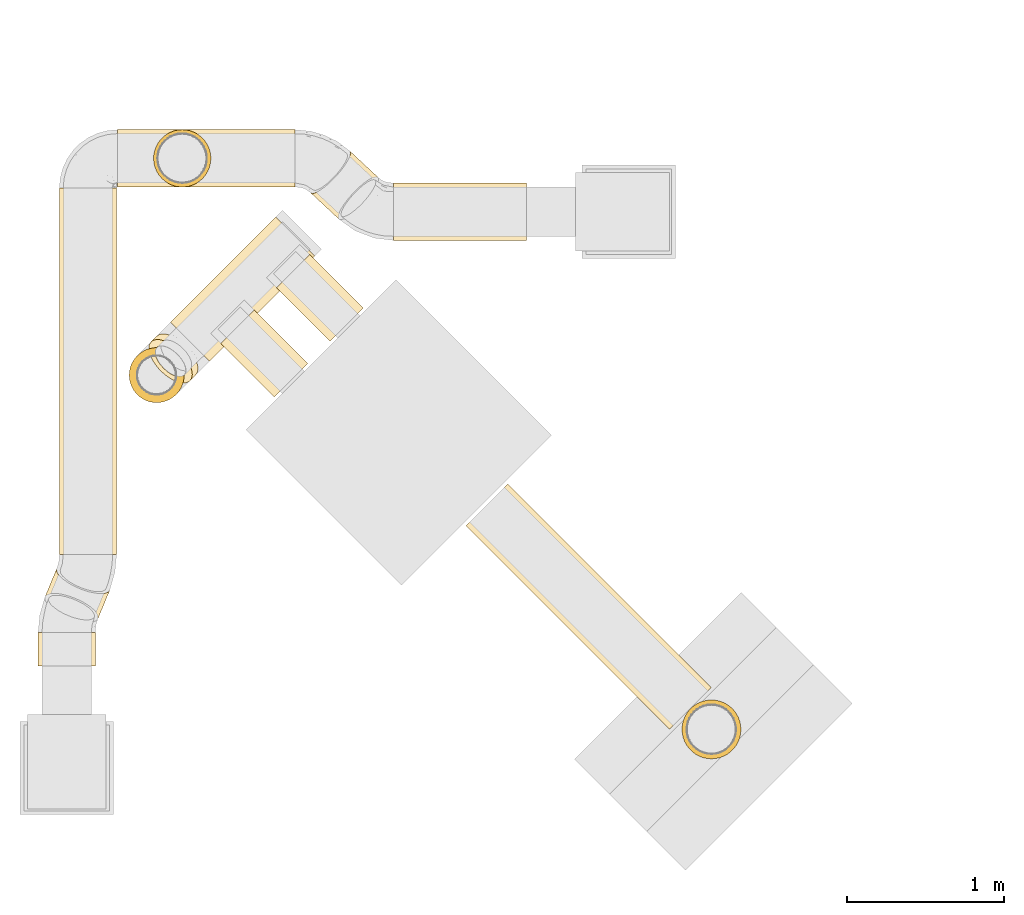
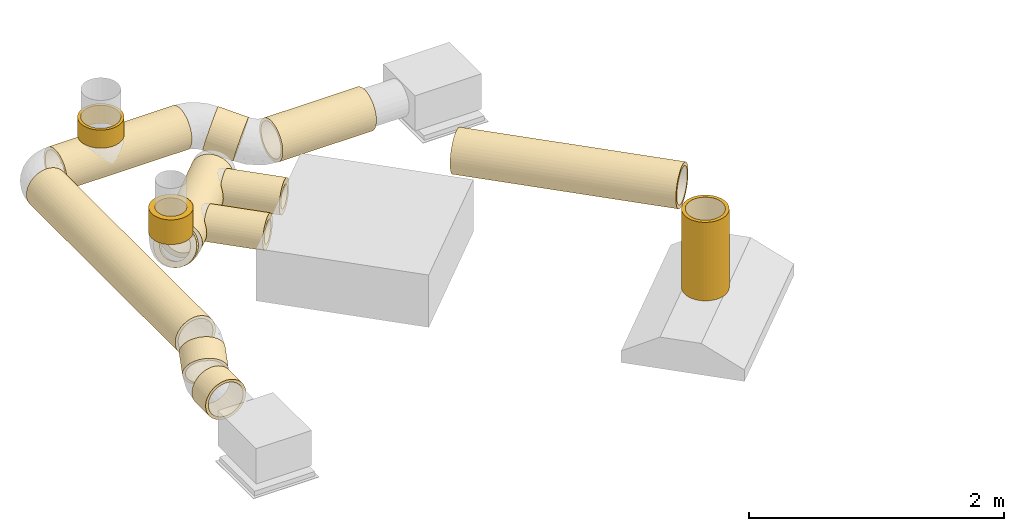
# One storey, part 1 of 12: 14 coverings.
"""IFC2X3 building model written with IfcOpenShell, lengths in millimetres."""

import ifcopenshell
import ifcopenshell.guid

model = None  # the IFC model being written
_history = None  # IfcOwnerHistory: only IFC2X3 demands one
_inside = {}  # id of a spatial element -> (the spatial element, [elements in it])
_under = {}  # id of a project, library or spatial element -> (it, [spatial elements below it])
_declared = {}  # id of a project -> (the project, [libraries it declares])
_typed = {}  # id of a type object -> (the type object, [elements of that type])
_made_of = {}  # id of a material, layer set ... -> (it, [elements and type objects made of it])


def new_model(schema):
    """Start an empty IFC model of exactly this schema.

    Asked for "IFC4X3", IfcOpenShell would pick the latest addendum, in which some entities
    have other attributes; the version numbers below select the first issue.
    IFC2X3 requires an IfcOwnerHistory on every rooted entity: one is made here for all.
    """
    global model, _history
    if schema == "IFC4X3":
        model = ifcopenshell.file(schema_version=(4, 3, 0, 0))
    else:
        model = ifcopenshell.file(schema=schema)
    _inside.clear()
    _under.clear()
    _declared.clear()
    _typed.clear()
    _made_of.clear()
    _history = None
    if model.schema == "IFC2X3":
        org = make("IfcOrganization", Name="unknown")
        user = make(
            "IfcPersonAndOrganization",
            ThePerson=make("IfcPerson", FamilyName="unknown"),
            TheOrganization=org,
        )
        app = make(
            "IfcApplication",
            ApplicationDeveloper=org,
            Version="unknown",
            ApplicationFullName="unknown",
            ApplicationIdentifier="unknown",
        )
        _history = make(
            "IfcOwnerHistory",
            OwningUser=user,
            OwningApplication=app,
            ChangeAction="ADDED",
            CreationDate=0,
        )
    return model


def make(cls, **values):
    """One entity of the class cls with the attributes given. An attribute that is None is left unset."""
    return model.create_entity(
        cls, **{name: value for name, value in values.items() if value is not None}
    )


def entity(cls, *values):
    """Any entity or typed value of the class cls, its attributes in the order of the schema. None: left unset."""
    e = model.create_entity(cls)
    for i, value in enumerate(values):
        if value is not None:
            e[i] = value
    return e


def rooted(cls, **values):
    """An entity with a GlobalId (a new one), such as an element, a storey or a relation."""
    return make(cls, GlobalId=ifcopenshell.guid.new(), OwnerHistory=_history, **values)


def si_unit(unit_type, name, prefix=None):
    """IfcSIUnit, for example si_unit("LENGTHUNIT", "METRE", prefix="MILLI")."""
    return make("IfcSIUnit", UnitType=unit_type, Prefix=prefix, Name=name)


def converted_unit(unit_type, name, factor, base, dimensions=None, offset=None):
    """IfcConversionBasedUnit, such as the inch: factor (a typed value) times the base unit."""
    return make(
        "IfcConversionBasedUnit"
        if offset is None
        else "IfcConversionBasedUnitWithOffset",
        ConversionOffset=offset,
        Dimensions=None
        if dimensions is None
        else entity("IfcDimensionalExponents", *dimensions),
        UnitType=unit_type,
        Name=name,
        ConversionFactor=make(
            "IfcMeasureWithUnit", ValueComponent=factor, UnitComponent=base
        ),
    )


def derived_unit(unit_type, elements):
    """IfcDerivedUnit: a product of units, each with its exponent."""
    return make(
        "IfcDerivedUnit",
        Elements=[
            make("IfcDerivedUnitElement", Unit=unit, Exponent=power)
            for unit, power in elements
        ],
        UnitType=unit_type,
    )


def assignment(units):
    """IfcUnitAssignment: the units of a project."""
    return None if units is None else make("IfcUnitAssignment", Units=units)


def point(xyz):
    """IfcCartesianPoint."""
    return None if xyz is None else make("IfcCartesianPoint", Coordinates=xyz)


def direction(xyz):
    """IfcDirection."""
    return None if xyz is None else make("IfcDirection", DirectionRatios=xyz)


def frame(location, z_axis=None, x_axis=None):
    """IfcAxis2Placement3D, a coordinate frame: its origin and axes. An axis left out is left unset."""
    return make(
        "IfcAxis2Placement3D",
        Location=point(location),
        Axis=direction(z_axis),
        RefDirection=direction(x_axis),
    )


def frame_2d(location, x_axis=None):
    """IfcAxis2Placement2D, a coordinate frame in the plane: its origin and x axis."""
    return make(
        "IfcAxis2Placement2D", Location=point(location), RefDirection=direction(x_axis)
    )


def origin_with_axes():
    """The frame at (0, 0, 0) with the z axis (0, 0, 1) and the x axis (1, 0, 0) written out."""
    return frame((0.0, 0.0, 0.0), z_axis=(0.0, 0.0, 1.0), x_axis=(1.0, 0.0, 0.0))


def origin_2d_with_axis():
    """The frame at (0, 0) in the plane with the x axis (1, 0) written out."""
    return frame_2d((0.0, 0.0), x_axis=(1.0, 0.0))


def place(relative_to, where):
    """IfcLocalPlacement: puts the frame where relative to a parent placement (None: the world)."""
    return make(
        "IfcLocalPlacement", PlacementRelTo=relative_to, RelativePlacement=where
    )


def context(
    kind, dimensions, precision=None, world=None, true_north=None, identifier=None
):
    """IfcGeometricRepresentationContext, for example the 3D "Model" context."""
    return make(
        "IfcGeometricRepresentationContext",
        ContextIdentifier=identifier,
        ContextType=kind,
        CoordinateSpaceDimension=dimensions,
        Precision=precision,
        WorldCoordinateSystem=world,
        TrueNorth=true_north,
    )


def subcontext(parent, identifier, kind, view, scale=None):
    """IfcGeometricRepresentationSubContext, for example "Body" below "Model"."""
    return make(
        "IfcGeometricRepresentationSubContext",
        ContextIdentifier=identifier,
        ContextType=kind,
        ParentContext=parent,
        TargetScale=scale,
        TargetView=view,
    )


def project(units=None, contexts=None):
    """IfcProject with its units and contexts."""
    return rooted(
        "IfcProject",
        Name="project",
        RepresentationContexts=contexts,
        UnitsInContext=assignment(units),
    )


def spatial(cls, under=None, at=None, **own):
    """A site, building, storey or space (cls), placed at a placement, below another one or the project."""
    s = rooted(cls, ObjectPlacement=at, **own)
    if under is not None:
        _under.setdefault(under.id(), (under, []))[1].append(s)
    return s


def profile(cls, at=None, kind="AREA", **sizes):
    """A parametric profile (cls). Its sizes go by their IFC names, for example OverallWidth=200.0."""
    return make(cls, ProfileType=kind, Position=at, **sizes)


def hollow_circle(**sizes):
    """IfcCircleHollowProfileDef."""
    return profile("IfcCircleHollowProfileDef", **sizes)


def extrude(swept, where, along, depth):
    """IfcExtrudedAreaSolid: the profile swept, set in the frame where, extruded along a direction by depth."""
    return make(
        "IfcExtrudedAreaSolid",
        SweptArea=swept,
        Position=where,
        ExtrudedDirection=direction(along),
        Depth=depth,
    )


def shape(context_of_items, identifier, shape_type, items):
    """IfcShapeRepresentation: the items that make up one representation, for example the "Body"."""
    return make(
        "IfcShapeRepresentation",
        ContextOfItems=context_of_items,
        RepresentationIdentifier=identifier,
        RepresentationType=shape_type,
        Items=items,
    )


def source(mapping_origin, context_of_items, identifier, shape_type, items):
    """IfcRepresentationMap: a shape defined once, which mapped items show again and again."""
    return make(
        "IfcRepresentationMap",
        MappingOrigin=mapping_origin,
        MappedRepresentation=shape(context_of_items, identifier, shape_type, items),
    )


def transform(
    local_origin,
    x_axis=None,
    y_axis=None,
    z_axis=None,
    scale=None,
    scale2=None,
    scale3=None,
    uniform=True,
):
    """IfcCartesianTransformationOperator3D, or its non-uniform kind. x_axis, y_axis, z_axis: its Axis1, 2, 3."""
    if uniform:
        return make(
            "IfcCartesianTransformationOperator3D",
            Axis1=direction(x_axis),
            Axis2=direction(y_axis),
            LocalOrigin=point(local_origin),
            Scale=scale,
            Axis3=direction(z_axis),
        )
    return make(
        "IfcCartesianTransformationOperator3DnonUniform",
        Axis1=direction(x_axis),
        Axis2=direction(y_axis),
        LocalOrigin=point(local_origin),
        Scale=scale,
        Axis3=direction(z_axis),
        Scale2=scale2,
        Scale3=scale3,
    )


def mapped(mapping_source, mapping_target):
    """IfcMappedItem: shows the shape of a source again, moved by a transform."""
    return make(
        "IfcMappedItem", MappingSource=mapping_source, MappingTarget=mapping_target
    )


def made_of(thing, what):
    """Note that an element or type object is made of a material, layer set ...; save() writes the relation."""
    if what is not None:
        _made_of.setdefault(what.id(), (what, []))[1].append(thing)
    return thing


def element(
    cls,
    number,
    at=None,
    inside=None,
    cuts=None,
    type_object=None,
    material=None,
    context=None,
    identifier="Body",
    shape_type=None,
    held_by="IfcProductDefinitionShape",
    body=None,
    shapes=None,
    **own,
):
    """One element of the class cls, such as IfcWall. Its Tag is "e" and its number.

    at: its placement. inside: the storey or other place that contains it. cuts: it is an
    opening in that element (IfcRelVoidsElement). A single representation is given by context,
    identifier, shape_type and body (its items); several are given by shapes. held_by: the class
    of the entity that holds the representations. save() writes the other relations.
    """
    e = rooted(cls, Tag="e%d" % number, ObjectPlacement=at, **own)
    if body is not None:
        shapes = [shape(context, identifier, shape_type, body)]
    if shapes is not None:
        e.Representation = make(held_by, Representations=shapes)
    if inside is not None:
        _inside.setdefault(inside.id(), (inside, []))[1].append(e)
    if cuts is not None:
        rooted(
            "IfcRelVoidsElement", RelatingBuildingElement=cuts, RelatedOpeningElement=e
        )
    if type_object is not None:
        _typed.setdefault(type_object.id(), (type_object, []))[1].append(e)
    return made_of(e, material)


def aggregate(whole, parts):
    """IfcRelAggregates: a whole, such as a stair, and the parts it consists of."""
    return rooted("IfcRelAggregates", RelatingObject=whole, RelatedObjects=parts)


def save(model, path):
    """Write the relations noted so far, then the file.

    IfcRelAggregates (storeys below a building ...), IfcRelContainedInSpatialStructure (elements
    in a storey), IfcRelDefinesByType, IfcRelAssociatesMaterial and IfcRelDeclares: one each for
    every whole, place, type object, material and project.
    """
    for whole, parts in _under.values():
        aggregate(whole, parts)
    for where, things in _inside.values():
        rooted(
            "IfcRelContainedInSpatialStructure",
            RelatedElements=things,
            RelatingStructure=where,
        )
    for kind, things in _typed.values():
        rooted("IfcRelDefinesByType", RelatedObjects=things, RelatingType=kind)
    for what, things in _made_of.values():
        rooted("IfcRelAssociatesMaterial", RelatedObjects=things, RelatingMaterial=what)
    for by, libraries in _declared.values():
        rooted("IfcRelDeclares", RelatingContext=by, RelatedDefinitions=libraries)
    model.write(path)


model = new_model("IFC2X3")

# Units and contexts
model_context = context("Model", 3, precision=0.01, world=frame((0.0, 4.29681676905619e-09, 0.0)), true_north=direction((4.01073788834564e-13, 1.0)))
plan_context = context("Plan", 3, precision=0.01, world=frame((0.0, 4.29681676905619e-09, 0.0)), true_north=direction((4.01073788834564e-13, 1.0)))
body_context = subcontext(model_context, "Body", "Model", "MODEL_VIEW")
ifc_project = project(units=[converted_unit("PLANEANGLEUNIT", "DEGREE", entity("IfcPositiveLengthMeasure", 0.0174532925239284), si_unit("PLANEANGLEUNIT", "RADIAN"), dimensions=[0, 0, 0, 0, 0, 0, 0]), si_unit("AREAUNIT", "SQUARE_METRE"), si_unit("LENGTHUNIT", "METRE", prefix="MILLI"), si_unit("MASSUNIT", "GRAM", prefix="KILO"), si_unit("POWERUNIT", "WATT"), si_unit("PRESSUREUNIT", "PASCAL", prefix="KILO"), si_unit("FORCEUNIT", "NEWTON", prefix="KILO"), si_unit("ELECTRICVOLTAGEUNIT", "VOLT"), si_unit("ELECTRICCURRENTUNIT", "AMPERE"), si_unit("THERMODYNAMICTEMPERATUREUNIT", "DEGREE_CELSIUS"), si_unit("TIMEUNIT", "SECOND"), si_unit("VOLUMEUNIT", "CUBIC_METRE"), derived_unit("LINEARVELOCITYUNIT", [(si_unit("LENGTHUNIT", "METRE"), 1), (si_unit("TIMEUNIT", "SECOND"), -1)]), derived_unit("VOLUMETRICFLOWRATEUNIT", [(si_unit("VOLUMEUNIT", "CUBIC_METRE"), 1), (si_unit("TIMEUNIT", "SECOND"), -1)]), derived_unit("THERMALTRANSMITTANCEUNIT", [(si_unit("POWERUNIT", "WATT"), 1), (si_unit("THERMODYNAMICTEMPERATUREUNIT", "KELVIN"), -1), (si_unit("AREAUNIT", "SQUARE_METRE"), -1)]), derived_unit("SOUNDPRESSUREUNIT", [(si_unit("PRESSUREUNIT", "PASCAL"), 1)])], contexts=[model_context, plan_context])

# Site, building, storey
site_placement = place(None, frame((0.0, -4.29681676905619e-09, 0.0), z_axis=(0.0, 0.0, 1.0), x_axis=(1.0, 0.0, 0.0)))
site = spatial("IfcSite", under=ifc_project, at=site_placement, CompositionType="ELEMENT")
building_placement = place(site_placement, frame((0.0, 4.29681676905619e-09, 0.0), z_axis=(0.0, 0.0, 1.0), x_axis=(1.0, 0.0, 0.0)))
building = spatial("IfcBuilding", under=site, at=building_placement, Name="mc-building", CompositionType="ELEMENT")
storey_placement = place(building_placement, frame((0.0, 0.0, 204000.0), z_axis=(0.0, 0.0, 1.0), x_axis=(1.0, 0.0, 0.0)))
storey = spatial("IfcBuildingStorey", under=building, at=storey_placement, Name="Nivå D", CompositionType="ELEMENT", Elevation=204000.0)

# Coverings
shared_shape_1 = source(origin_with_axes(), body_context, "Body", "SweptSolid", [
    extrude(hollow_circle(Radius=187.5, WallThickness=30.0, at=origin_2d_with_axis()), frame((0.0, 0.0, 0.0), z_axis=(1.0, 0.0, 0.0), x_axis=(0.0, 1.0, 0.0)), (0.0, 0.0, 1.0), 751.0),
])
covering_1_placement = place(storey_placement, frame((600701.00455, 400750.8939, 3301.0), z_axis=(0.0, -1.0, 0.0), x_axis=(0.0, 0.0, -1.0)))
element("IfcCovering", 1, at=covering_1_placement, inside=storey, Name="EI30-30", PredefinedType="INSULATION", context=body_context, shape_type="MappedRepresentation", body=[
    mapped(shared_shape_1, transform((0.0, 0.0, 0.0), scale=1.0)),
])
shared_shape_2 = source(origin_with_axes(), body_context, "Body", "SweptSolid", [
    extrude(hollow_circle(Radius=182.5, WallThickness=25.0, at=origin_2d_with_axis()), frame((0.0, 0.0, 0.0), z_axis=(1.0, 0.0, 0.0), x_axis=(0.0, 1.0, 0.0)), (0.0, 0.0, 1.0), 2333.2),
])
covering_2_placement = place(storey_placement, frame((596732.0, 404197.04214, 2800.0), z_axis=(0.661280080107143, 0.0, 0.75013909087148), x_axis=(0.0, -1.0, 0.0)))
element("IfcCovering", 2, at=covering_2_placement, inside=storey, Name="T=25mm", PredefinedType="INSULATION", context=body_context, shape_type="MappedRepresentation", body=[
    mapped(shared_shape_2, transform((0.0, 0.0, 0.0), scale=1.0)),
])
shared_shape_3 = source(origin_with_axes(), body_context, "Body", "SweptSolid", [
    extrude(hollow_circle(Radius=175.0, WallThickness=50.0, at=origin_2d_with_axis()), frame((0.0, 0.0, 0.0), z_axis=(1.0, 0.0, 0.0), x_axis=(0.0, 1.0, 0.0)), (0.0, 0.0, 1.0), 235.7),
])
covering_3_placement = place(storey_placement, frame((597169.2875, 403005.94192, 3185.09680999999), z_axis=(0.0, 1.0, 0.0), x_axis=(0.0, 0.0, -1.0)))
element("IfcCovering", 3, at=covering_3_placement, inside=storey, Name="EI30-50", PredefinedType="INSULATION", context=body_context, shape_type="MappedRepresentation", body=[
    mapped(shared_shape_3, transform((0.0, 0.0, 0.0), scale=1.0)),
])
shared_shape_4 = source(origin_with_axes(), body_context, "Body", "SweptSolid", [
    extrude(hollow_circle(Radius=182.5, WallThickness=25.0, at=origin_2d_with_axis()), frame((0.0, 0.0, 0.0), z_axis=(1.0, 0.0, 0.0), x_axis=(0.0, 1.0, 0.0)), (0.0, 0.0, 1.0), 213.2),
])
covering_4_placement = place(storey_placement, frame((596596.8026, 401155.13585, 2668.5), z_axis=(0.0, 0.0, 1.0), x_axis=(0.0, 1.0, 0.0)))
element("IfcCovering", 4, at=covering_4_placement, inside=storey, Name="T=25mm", PredefinedType="INSULATION", context=body_context, shape_type="MappedRepresentation", body=[
    mapped(shared_shape_4, transform((0.0, 0.0, 0.0), scale=1.0)),
])
shared_shape_5 = source(origin_with_axes(), body_context, "Body", "SweptSolid", [
    extrude(hollow_circle(Radius=182.5, WallThickness=25.0, at=origin_2d_with_axis()), frame((0.0, 0.0, 0.0), z_axis=(1.0, 0.0, 0.0), x_axis=(0.0, 1.0, 0.0)), (0.0, 0.0, 1.0), 172.5),
])
covering_5_placement = place(storey_placement, frame((597332.0, 404386.04214, 3155.0), z_axis=(1.0, 0.0, 0.0), x_axis=(0.0, 0.0, -1.0)))
element("IfcCovering", 5, at=covering_5_placement, inside=storey, Name="T=25mm", PredefinedType="INSULATION", context=body_context, shape_type="MappedRepresentation", body=[
    mapped(shared_shape_5, transform((0.0, 0.0, 0.0), scale=1.0)),
])
shared_shape_6 = source(origin_with_axes(), body_context, "Body", "SweptSolid", [
    extrude(hollow_circle(Radius=182.5, WallThickness=25.0, at=origin_2d_with_axis()), frame((0.0, 0.0, 0.0), z_axis=(1.0, 0.0, 0.0), x_axis=(0.0, 1.0, 0.0)), (0.0, 0.0, 1.0), 1130.0),
])
covering_6_placement = place(storey_placement, frame((596921.0, 404386.04214, 2800.0), z_axis=(0.0, 0.0, 1.0), x_axis=(1.0, 0.0, 0.0)))
element("IfcCovering", 6, at=covering_6_placement, inside=storey, Name="T=25mm", PredefinedType="INSULATION", context=body_context, shape_type="MappedRepresentation", body=[
    mapped(shared_shape_6, transform((0.0, 0.0, 0.0), scale=1.0)),
])
shared_shape_7 = source(origin_with_axes(), body_context, "Body", "SweptSolid", [
    extrude(hollow_circle(Radius=182.5, WallThickness=25.0, at=origin_2d_with_axis()), frame((0.0, 0.0, 0.0), z_axis=(1.0, 0.0, 0.0), x_axis=(0.0, 1.0, 0.0)), (0.0, 0.0, 1.0), 848.4),
])
covering_7_placement = place(storey_placement, frame((599524.5, 404046.5125, 2668.5), z_axis=(0.0, 0.932504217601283, 0.361159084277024), x_axis=(-1.0, 0.0, 0.0)))
element("IfcCovering", 7, at=covering_7_placement, inside=storey, Name="T=25mm", PredefinedType="INSULATION", context=body_context, shape_type="MappedRepresentation", body=[
    mapped(shared_shape_7, transform((0.0, 0.0, 0.0), scale=1.0)),
])
shared_shape_8 = source(origin_with_axes(), body_context, "Body", "SweptSolid", [
    extrude(hollow_circle(Radius=150.0, WallThickness=50.0, at=origin_2d_with_axis()), frame((0.0, 0.0, 0.0), z_axis=(1.0, 0.0, 0.0), x_axis=(0.0, 1.0, 0.0)), (0.0, 0.0, 1.0), 483.7),
])
for number, where, z_axis, x_axis, name in (
    (8, (598025.33976, 402972.88061, 2670.0), (0.0, 0.0, 1.0), (-0.707106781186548, 0.707106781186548, 0.0), "EI30-50"),
    (9, (598378.89315, 403326.434, 2670.0), (2.4999999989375e-05, -1.4999999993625e-05, 0.999999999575), (-0.707106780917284, 0.707106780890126, 2.8284271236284e-05), "EI30-50"),
):
    element("IfcCovering", number, at=place(storey_placement, frame(where, z_axis=z_axis, x_axis=x_axis)), inside=storey, Name=name, PredefinedType="INSULATION", context=body_context, shape_type="MappedRepresentation", body=[
        mapped(shared_shape_8, transform((0.0, 0.0, 0.0), scale=1.0)),
    ])
shared_shape_9 = source(origin_with_axes(), body_context, "Body", "SweptSolid", [
    extrude(hollow_circle(Radius=175.0, WallThickness=50.0, at=origin_2d_with_axis()), frame((0.0, 0.0, 0.0), z_axis=(1.0, 0.0, 0.0), x_axis=(0.0, 1.0, 0.0)), (0.0, 0.0, 1.0), 947.1),
])
covering_8_placement = place(storey_placement, frame((597382.0848, 403218.79721, 2670.0), z_axis=(0.0, 0.0, 1.0), x_axis=(0.707106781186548, 0.707106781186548, 0.0)))
element("IfcCovering", 10, at=covering_8_placement, inside=storey, Name="EI30-50", PredefinedType="INSULATION", context=body_context, shape_type="MappedRepresentation", body=[
    mapped(shared_shape_9, transform((0.0, 0.0, 0.0), scale=1.0)),
])
shared_shape_10 = source(origin_with_axes(), body_context, "Body", "SweptSolid", [
    extrude(hollow_circle(Radius=175.0, WallThickness=50.0, at=origin_2d_with_axis()), frame((0.0, 0.0, 0.0), z_axis=(1.0, 0.0, 0.0), x_axis=(0.0, 1.0, 0.0)), (0.0, 0.0, 1.0), 58.9),
])
covering_9_placement = place(storey_placement, frame((597257.66036, 403094.34576, 2732.92801999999), z_axis=(0.353491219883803, 0.353615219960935, 0.866025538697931), x_axis=(0.612265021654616, 0.612480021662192, -0.499999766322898)))
element("IfcCovering", 11, at=covering_9_placement, inside=storey, Name="EI30-30", PredefinedType="INSULATION", context=body_context, shape_type="MappedRepresentation", body=[
    mapped(shared_shape_10, transform((0.0, 0.0, 0.0), scale=1.0)),
])
shared_shape_11 = source(origin_with_axes(), body_context, "Body", "SweptSolid", [
    extrude(hollow_circle(Radius=182.5, WallThickness=25.0, at=origin_2d_with_axis()), frame((0.0, 0.0, 0.0), z_axis=(1.0, 0.0, 0.0), x_axis=(0.0, 1.0, 0.0)), (0.0, 0.0, 1.0), 254.0),
])
covering_10_placement = place(storey_placement, frame((598273.78409, 404300.00804, 2766.67895), z_axis=(0.707106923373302, 0.659379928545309, 0.255377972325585), x_axis=(0.707106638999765, -0.659380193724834, -0.255378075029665)))
element("IfcCovering", 12, at=covering_10_placement, inside=storey, Name="T=25mm", PredefinedType="INSULATION", context=body_context, shape_type="MappedRepresentation", body=[
    mapped(shared_shape_11, transform((0.0, 0.0, 0.0), scale=1.0)),
])
shared_shape_12 = source(origin_with_axes(), body_context, "Body", "SweptSolid", [
    extrude(hollow_circle(Radius=182.5, WallThickness=25.0, at=origin_2d_with_axis()), frame((0.0, 0.0, 0.0), z_axis=(1.0, 0.0, 0.0), x_axis=(0.0, 1.0, 0.0)), (0.0, 0.0, 1.0), 208.4),
])
covering_11_placement = place(storey_placement, frame((596701.74788, 401706.33938, 2770.57522), z_axis=(-0.133315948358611, -0.32212087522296, 0.937264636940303), x_axis=(-0.358420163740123, -0.866025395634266, -0.348618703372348)))
element("IfcCovering", 13, at=covering_11_placement, inside=storey, Name="T=25mm", PredefinedType="INSULATION", context=body_context, shape_type="MappedRepresentation", body=[
    mapped(shared_shape_12, transform((0.0, 0.0, 0.0), scale=1.0)),
])
shared_shape_13 = source(origin_with_axes(), body_context, "Body", "SweptSolid", [
    extrude(hollow_circle(Radius=187.5, WallThickness=30.0, at=origin_2d_with_axis()), frame((0.0, 0.0, 0.0), z_axis=(1.0, 0.0, 0.0), x_axis=(0.0, 1.0, 0.0)), (0.0, 0.0, 1.0), 1831.8),
])
covering_12_placement = place(storey_placement, frame((600567.36137, 400884.53709, 3490.0), z_axis=(0.0, 0.0, 1.0), x_axis=(-0.707106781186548, 0.707106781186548, 0.0)))
element("IfcCovering", 14, at=covering_12_placement, inside=storey, Name="EI30-30", PredefinedType="INSULATION", context=body_context, shape_type="MappedRepresentation", body=[
    mapped(shared_shape_13, transform((0.0, 0.0, 0.0), scale=1.0)),
])

save(model, "model.ifc")
